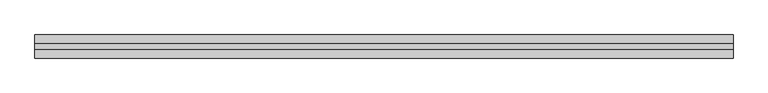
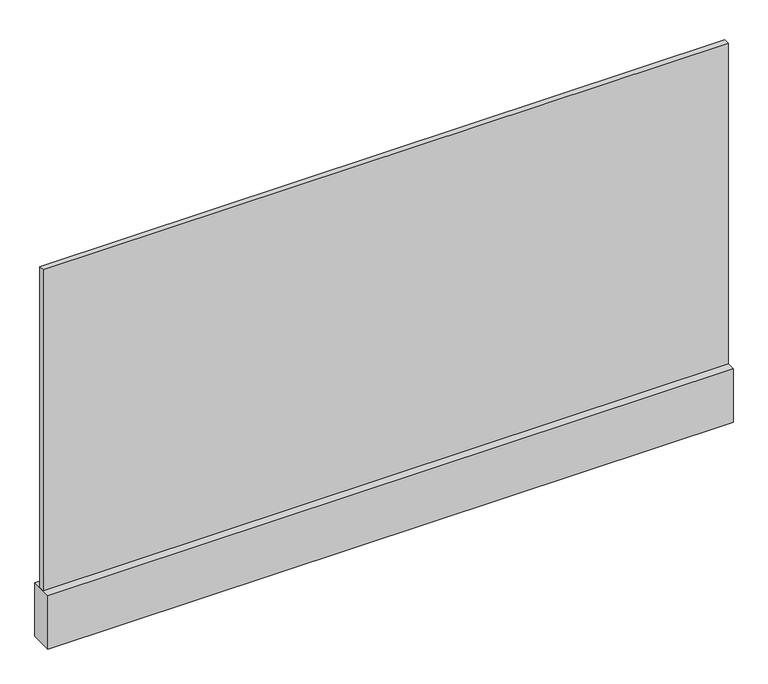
"""IFC4 building model written with IfcOpenShell, lengths in millimetres: plate geometry, r パネル FIX 下框付 : 框 H100."""

from ifc_helpers import new_model, si_unit, frame, origin, origin_with_axes, place, context, project, spatial, polyline, outline, extrude, source, transform, mapped, element, save


def plate_90bea699(model_context):
    return source(origin(), model_context, "Body", "SweptSolid", [
        extrude(outline(polyline([(-605.9309555, -5.0), (-605.9309555, 5.0), (605.9309555, 5.0), (605.9309555, -5.0), (-605.9309555, -5.0)])), frame((0.0, 0.0, 100.0), z_axis=(0.0, 0.0, 1.0), x_axis=(1.0, 0.0, 0.0)), (0.0, 0.0, 1.0), 600.0),
        extrude(outline(polyline([(-605.9309555, -20.0), (-605.9309555, 20.0), (605.9309555, 20.0), (605.9309555, -20.0), (-605.9309555, -20.0)])), origin_with_axes(), (0.0, 0.0, 1.0), 100.0),
    ])


if __name__ == "__main__":
    model = new_model("IFC4")
    model_context = context("Model", 3, world=origin())
    ifc_project = project(units=[si_unit("LENGTHUNIT", "METRE", prefix="MILLI")], contexts=[model_context])
    site = spatial("IfcSite", under=ifc_project)
    building = spatial("IfcBuilding", under=site)
    placement = place(None, origin())
    plate_shape = plate_90bea699(model_context)
    element("IfcPlate", 1, ObjectType="r パネル FIX 下框付 : 框 H100", at=placement, inside=building, context=model_context, shape_type="MappedRepresentation", body=[
        mapped(plate_shape, transform((0.0, 0.0, 0.0), x_axis=(1.0, 0.0, 0.0), y_axis=(0.0, 1.0, 0.0), z_axis=(0.0, 0.0, 1.0))),
    ])
    save(model, "model.ifc")
